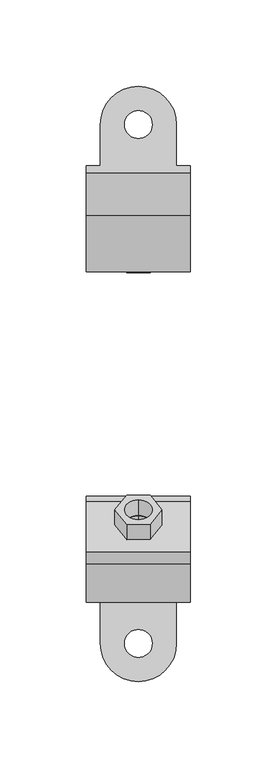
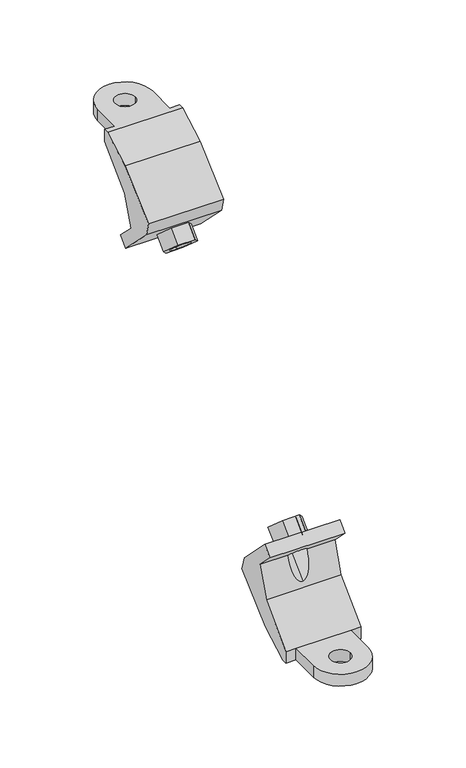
"""IFC4 building model written with IfcOpenShell, lengths in millimetres: valve geometry, Superfix Fixed point set Extra : Superfix Fixed Point Set Extra M10."""

from ifc_helpers import new_model, si_unit, point, frame, frame_2d, origin, origin_with_axes, place, context, project, spatial, polyline, circle_curve, ellipse_curve, trimmed, segment, composite_curve, outline, extrude, source, transform, mapped, element, save
from ifc_brep_helpers import plane_surface, cylinder_surface, revolved_surface, advanced_brep


def valve_ba4c3353(model_context):
    return source(origin(), model_context, "Body", "SolidModel", [
        advanced_brep(
        [(30.0, 272.0, 300.0), (30.0, 247.5658464, 286.4559275), (30.0, 214.9133707, 257.0555063), (30.0, 217.9019556, 245.9019556), (30.0, 246.8933336, 216.9105776), (30.0, 253.9644014, 223.9816454), (30.0, 239.8222658, 238.123781), (30.0, 248.7244405, 262.5823048), (30.0, 276.1421356, 290.0), (30.0, 276.1421356, 300.0), (-30.0, 276.1421356, 290.0), (-30.0, 248.7244405, 262.5823048), (-30.0, 239.8222658, 238.123781), (-30.0, 253.9644014, 223.9816454), (-30.0, 246.8933336, 216.9105776), (-30.0, 217.9019556, 245.9019556), (-30.0, 214.9133707, 257.0555063), (-30.0, 247.5658464, 286.4559275), (-30.0, 272.0, 300.0), (-30.0, 276.1421356, 300.0), (22.0, 276.1421356, 300.0), (22.0, 300.0, 300.0), (0.0, 322.0, 300.0), (-22.0, 300.0, 300.0), (-22.0, 276.1421356, 300.0), (-8.0, 300.0, 300.0), (8.0, 300.0, 300.0), (0.0, 237.5588098, 226.2451013), (0.0, 226.2451013, 237.5588098), (-7.9093347, 239.8222658, 238.123781), (0.0, 244.6298777, 233.3161692), (7.9093347, 239.8222658, 238.123781), (0.0, 247.2685385, 258.582247), (-22.0, 276.1421356, 290.0), (22.0, 276.1421356, 290.0), (-22.0, 300.0, 290.0), (0.0, 322.0, 290.0), (22.0, 300.0, 290.0), (8.0, 300.0, 290.0), (-8.0, 300.0, 290.0)],
        [
            (0, 1),
            (1, 2),
            (2, 3),
            (3, 4),
            (4, 5),
            (5, 6),
            (6, 7),
            (7, 8),
            (8, 9),
            (9, 0),
            (10, 11),
            (11, 12),
            (12, 13),
            (13, 14),
            (14, 15),
            (15, 16),
            (16, 17),
            (17, 18),
            (18, 19),
            (19, 10),
            (18, 0),
            (9, 20),
            (20, 21),
            (21, 22, circle_curve(frame((0.0, 300.0, 300.0), z_axis=(0.0, 0.0, 1.0), x_axis=(1.0, 0.0, 0.0)), 22.0)),
            (22, 23, circle_curve(frame((0.0, 300.0, 300.0), z_axis=(0.0, 0.0, 1.0), x_axis=(1.0, 0.0, 0.0)), 22.0)),
            (23, 24),
            (24, 19),
            (25, 26, circle_curve(frame((0.0, 300.0, 300.0), z_axis=(0.0, 0.0, -1.0), x_axis=(1.0, 0.0, 0.0)), 8.0)),
            (26, 25, circle_curve(frame((0.0, 300.0, 300.0), z_axis=(0.0, 0.0, -1.0), x_axis=(1.0, 0.0, 0.0)), 8.0)),
            (17, 1),
            (16, 2),
            (15, 3),
            (14, 4),
            (27, 28, circle_curve(frame((0.0, 231.9019556, 231.9019556), z_axis=(0.0, 0.7071067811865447, 0.7071067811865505), x_axis=(0.0, -0.7071067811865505, 0.7071067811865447)), 8.0)),
            (28, 27, circle_curve(frame((0.0, 231.9019556, 231.9019556), z_axis=(0.0, 0.7071067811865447, 0.7071067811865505), x_axis=(0.0, -0.7071067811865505, 0.7071067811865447)), 8.0)),
            (13, 5),
            (12, 29),
            (29, 30, circle_curve(frame((0.0, 238.9730234, 238.9730234), z_axis=(0.0, -0.7071067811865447, -0.7071067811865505), x_axis=(0.0, -0.7071067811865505, 0.7071067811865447)), 8.0)),
            (30, 31, circle_curve(frame((0.0, 238.9730234, 238.9730234), z_axis=(0.0, -0.7071067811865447, -0.7071067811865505), x_axis=(0.0, -0.7071067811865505, 0.7071067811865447)), 8.0)),
            (31, 6),
            (31, 32, ellipse_curve(frame((0.0, 240.7942296, 240.7942296), z_axis=(0.0, -0.9396926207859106, 0.34202014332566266), x_axis=(0.0, 0.3420201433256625, 0.9396926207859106)), 18.9296127, 8.0)),
            (32, 29, ellipse_curve(frame((0.0, 240.7942296, 240.7942296), z_axis=(0.0, -0.9396926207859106, 0.34202014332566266), x_axis=(0.0, 0.3420201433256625, 0.9396926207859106)), 18.9296127, 8.0)),
            (11, 7),
            (10, 33),
            (33, 34),
            (34, 8),
            (33, 35),
            (35, 36, circle_curve(frame((0.0, 300.0, 290.0), z_axis=(0.0, 0.0, -1.0), x_axis=(1.0, 0.0, 0.0)), 22.0)),
            (36, 37, circle_curve(frame((0.0, 300.0, 290.0), z_axis=(0.0, 0.0, -1.0), x_axis=(1.0, 0.0, 0.0)), 22.0)),
            (37, 34),
            (38, 39, circle_curve(frame((0.0, 300.0, 290.0), z_axis=(0.0, 0.0, 1.0), x_axis=(1.0, 0.0, 0.0)), 8.0)),
            (39, 38, circle_curve(frame((0.0, 300.0, 290.0), z_axis=(0.0, 0.0, 1.0), x_axis=(1.0, 0.0, 0.0)), 8.0)),
            (38, 26),
            (25, 39),
            (27, 30),
            (32, 28),
            (33, 24),
            (23, 35),
            (34, 20),
            (37, 21),
        ],
        [
            plane_surface(frame((30.0, 279.9912487, 300.0), z_axis=(1.0, 0.0, 0.0), x_axis=(0.0, -1.0, 0.0))),
            plane_surface(frame((-30.0, 279.9912487, 300.0), z_axis=(-1.0, 0.0, 0.0), x_axis=(0.0, 1.0, 0.0))),
            plane_surface(frame((30.0, 322.0, 300.0), z_axis=(0.0, 0.0, 1.0), x_axis=(-1.0, 0.0, 0.0))),
            plane_surface(frame((30.0, 272.0, 300.0), z_axis=(0.0, -0.48480962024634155, 0.8746197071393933), x_axis=(-1.0, 0.0, 0.0))),
            plane_surface(frame((30.0, 247.5658464, 286.4559275), z_axis=(0.0, -0.6691306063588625, 0.7431448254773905), x_axis=(-1.0, 0.0, 0.0))),
            plane_surface(frame((30.0, 214.9133707, 257.0555063), z_axis=(0.0, -0.9659258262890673, -0.25881904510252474), x_axis=(-1.0, 0.0, 0.0))),
            plane_surface(frame((30.0, 217.9019556, 245.9019556), z_axis=(0.0, -0.7071067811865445, -0.7071067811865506), x_axis=(-1.0, 0.0, 0.0))),
            plane_surface(frame((30.0, 246.8933336, 216.9105776), z_axis=(0.0, 0.7071067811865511, -0.7071067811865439), x_axis=(-1.0, 0.0, 0.0))),
            plane_surface(frame((30.0, 253.9644014, 223.9816454), z_axis=(0.0, 0.7071067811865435, 0.7071067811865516), x_axis=(-1.0, 0.0, 0.0))),
            plane_surface(frame((30.0, 239.8222658, 238.123781), z_axis=(0.0, 0.9396926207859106, -0.34202014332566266), x_axis=(-1.0, 0.0, 0.0))),
            plane_surface(frame((30.0, 248.7244405, 262.5823048), z_axis=(0.0, 0.7071067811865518, -0.7071067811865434), x_axis=(-1.0, 0.0, 0.0))),
            plane_surface(frame((30.0, 276.1421356, 290.0), z_axis=(0.0, 0.0, -1.0), x_axis=(-1.0, 0.0, 0.0))),
            revolved_surface(polyline([(8.0, 300.0, 290.0), (8.0, 300.0, 300.0)]), (0.0, 300.0, 300.0), (0.0, 0.0, -1.0)),
            revolved_surface(polyline([(0.0, 247.2685385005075, 258.5822469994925), (0.0, 223.00621224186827, 234.3199207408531)]), (0.0, 222.7095674, 222.7095674), (0.0, 0.7071067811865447, 0.7071067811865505)),
            plane_surface(frame((-22.0, 300.0, 290.0), z_axis=(-1.0, 0.0, 0.0), x_axis=(0.0, 0.0, 1.0))),
            plane_surface(frame((-22.0, 276.1421356, 290.0), z_axis=(0.0, 1.0, 0.0), x_axis=(0.0, 0.0, 1.0))),
            plane_surface(frame((30.0, 276.1421356, 290.0), z_axis=(0.0, 1.0, 0.0), x_axis=(0.0, 0.0, 1.0))),
            plane_surface(frame((22.0, 276.1421356, 290.0), z_axis=(1.0, 0.0, 0.0), x_axis=(0.0, 0.0, 1.0))),
            cylinder_surface(frame((0.0, 300.0, 300.0), z_axis=(0.0, 0.0, 1.0), x_axis=(1.0, 0.0, 0.0)), 22.0),
        ],
        [
            (0, [[1, 2, 3, 4, 5, 6, 7, 8, 9, 10]]),
            (1, [[11, 12, 13, 14, 15, 16, 17, 18, 19, 20]]),
            (2, [[21, -10, 22, 23, 24, 25, 26, 27, -19], [28, 29]]),
            (3, [[-1, -21, -18, 30]]),
            (4, [[-2, -30, -17, 31]]),
            (5, [[-3, -31, -16, 32]]),
            (6, [[-4, -32, -15, 33], [34, 35]]),
            (7, [[-5, -33, -14, 36]]),
            (8, [[-6, -36, -13, 37, 38, 39, 40]]),
            (9, [[-7, -40, 41, 42, -37, -12, 43]]),
            (10, [[-8, -43, -11, 44, 45, 46]]),
            (11, [[-45, 47, 48, 49, 50], [51, 52]]),
            (12, [[53, -28, 54, -51]]),
            (12, [[-53, -52, -54, -29]]),
            (13, [[55, -38, -42, 56, -34]]),
            (13, [[-55, -35, -56, -41, -39]]),
            (14, [[57, -26, 58, -47]]),
            (15, [[-57, -44, -20, -27]]),
            (16, [[59, -22, -9, -46]]),
            (17, [[-59, -50, 60, -23]]),
            (18, [[-58, -25, -24, -60, -49, -48]]),
        ],
    ),
        extrude(outline(polyline([(0.0, 0.0), (13.5677313, 0.0), (20.351597, -11.75), (13.5677313, -23.5), (0.0, -23.5), (-6.7838657, -11.7499999), (0.0, 0.0)]), holes=[composite_curve([segment(trimmed(circle_curve(frame_2d((6.7838657, -11.75)), 8.0), [point((-0.1443376, -15.75))], [point((13.7120689, -7.75))], True, "CARTESIAN"), True, "CONTINUOUS"), segment(trimmed(circle_curve(frame_2d((6.7838657, -11.75)), 8.0), [point((13.7120689, -7.75))], [point((-0.1443376, -15.75))], True, "CARTESIAN"), True, "CONTINUOUS")], self_intersect=False)]), frame((13.5677313, 222.7095674, 222.7095674), z_axis=(0.0, 0.7071067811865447, 0.7071067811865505), x_axis=(-0.5000000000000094, -0.6123724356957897, 0.6123724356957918)), (0.0, 0.0, 1.0), 13.0),
        advanced_brep(
        [(30.0, 28.0, 0.0), (30.0, 52.4341536, 13.5440725), (30.0, 85.0866293, 42.9444937), (30.0, 82.0980444, 54.0980444), (30.0, 53.1066664, 83.0894224), (30.0, 46.0355986, 76.0183546), (30.0, 60.1777342, 61.876219), (30.0, 51.2755595, 37.4176952), (30.0, 23.8578644, 10.0), (30.0, 23.8578644, 0.0), (-30.0, 23.8578644, 10.0), (-30.0, 51.2755595, 37.4176952), (-30.0, 60.1777342, 61.876219), (-30.0, 46.0355986, 76.0183546), (-30.0, 53.1066664, 83.0894224), (-30.0, 82.0980444, 54.0980444), (-30.0, 85.0866293, 42.9444937), (-30.0, 52.4341536, 13.5440725), (-30.0, 28.0, 0.0), (-30.0, 23.8578644, 0.0), (22.0, 23.8578644, 0.0), (22.0, 0.0, 0.0), (0.0, -22.0, 0.0), (-22.0, 0.0, 0.0), (-22.0, 23.8578644, 0.0), (-8.0, 0.0, 0.0), (8.0, 0.0, 0.0), (0.0, 62.4411902, 73.7548987), (0.0, 73.7548987, 62.4411902), (-7.9093347, 60.1777342, 61.876219), (0.0, 55.3701223, 66.6838308), (7.9093347, 60.1777342, 61.876219), (0.0, 52.7314615, 41.417753), (-22.0, 23.8578644, 10.0), (22.0, 23.8578644, 10.0), (-22.0, 0.0, 10.0), (0.0, -22.0, 10.0), (22.0, 0.0, 10.0), (8.0, 0.0, 10.0), (-8.0, 0.0, 10.0)],
        [
            (0, 1),
            (1, 2),
            (2, 3),
            (3, 4),
            (4, 5),
            (5, 6),
            (6, 7),
            (7, 8),
            (8, 9),
            (9, 0),
            (10, 11),
            (11, 12),
            (12, 13),
            (13, 14),
            (14, 15),
            (15, 16),
            (16, 17),
            (17, 18),
            (18, 19),
            (19, 10),
            (18, 0),
            (9, 20),
            (20, 21),
            (21, 22, circle_curve(frame((0.0, 0.0, 0.0), z_axis=(0.0, 0.0, -1.0), x_axis=(1.0, 0.0, 0.0)), 22.0)),
            (22, 23, circle_curve(frame((0.0, 0.0, 0.0), z_axis=(0.0, 0.0, -1.0), x_axis=(1.0, 0.0, 0.0)), 22.0)),
            (23, 24),
            (24, 19),
            (25, 26, circle_curve(origin_with_axes(), 8.0)),
            (26, 25, circle_curve(origin_with_axes(), 8.0)),
            (17, 1),
            (16, 2),
            (15, 3),
            (14, 4),
            (27, 28, circle_curve(frame((0.0, 68.0980444, 68.0980444), z_axis=(0.0, -0.707106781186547, -0.7071067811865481), x_axis=(0.0, 0.7071067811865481, -0.707106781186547)), 8.0)),
            (28, 27, circle_curve(frame((0.0, 68.0980444, 68.0980444), z_axis=(0.0, -0.707106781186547, -0.7071067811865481), x_axis=(0.0, 0.7071067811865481, -0.707106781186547)), 8.0)),
            (13, 5),
            (12, 29),
            (29, 30, circle_curve(frame((0.0, 61.0269766, 61.0269766), z_axis=(0.0, 0.707106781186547, 0.7071067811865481), x_axis=(0.0, 0.7071067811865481, -0.707106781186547)), 8.0)),
            (30, 31, circle_curve(frame((0.0, 61.0269766, 61.0269766), z_axis=(0.0, 0.707106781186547, 0.7071067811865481), x_axis=(0.0, 0.7071067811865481, -0.707106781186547)), 8.0)),
            (31, 6),
            (31, 32, ellipse_curve(frame((0.0, 59.2057704, 59.2057704), z_axis=(0.0, 0.9396926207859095, -0.3420201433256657), x_axis=(0.0, -0.34202014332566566, -0.9396926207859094)), 18.9296127, 8.0)),
            (32, 29, ellipse_curve(frame((0.0, 59.2057704, 59.2057704), z_axis=(0.0, 0.9396926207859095, -0.3420201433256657), x_axis=(0.0, -0.34202014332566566, -0.9396926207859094)), 18.9296127, 8.0)),
            (11, 7),
            (10, 33),
            (33, 34),
            (34, 8),
            (33, 35),
            (35, 36, circle_curve(frame((0.0, 0.0, 10.0), z_axis=(0.0, 0.0, 1.0), x_axis=(1.0, 0.0, 0.0)), 22.0)),
            (36, 37, circle_curve(frame((0.0, 0.0, 10.0), z_axis=(0.0, 0.0, 1.0), x_axis=(1.0, 0.0, 0.0)), 22.0)),
            (37, 34),
            (38, 39, circle_curve(frame((0.0, 0.0, 10.0), z_axis=(0.0, 0.0, -1.0), x_axis=(1.0, 0.0, 0.0)), 8.0)),
            (39, 38, circle_curve(frame((0.0, 0.0, 10.0), z_axis=(0.0, 0.0, -1.0), x_axis=(1.0, 0.0, 0.0)), 8.0)),
            (38, 26),
            (25, 39),
            (27, 30),
            (32, 28),
            (33, 24),
            (23, 35),
            (34, 20),
            (37, 21),
        ],
        [
            plane_surface(frame((30.0, 20.0087513, 0.0), z_axis=(1.0, 0.0, 0.0), x_axis=(0.0, 1.0, 0.0))),
            plane_surface(frame((-30.0, 20.0087513, 0.0), z_axis=(-1.0, 0.0, 0.0), x_axis=(0.0, -1.0, 0.0))),
            plane_surface(frame((30.0, -22.0, 0.0), z_axis=(0.0, 0.0, -1.0), x_axis=(-1.0, 0.0, 0.0))),
            plane_surface(frame((30.0, 28.0, 0.0), z_axis=(0.0, 0.4848096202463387, -0.8746197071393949), x_axis=(-1.0, 0.0, 0.0))),
            plane_surface(frame((30.0, 52.4341536, 13.5440725), z_axis=(0.0, 0.66913060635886, -0.7431448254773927), x_axis=(-1.0, 0.0, 0.0))),
            plane_surface(frame((30.0, 85.0866293, 42.9444937), z_axis=(0.0, 0.9659258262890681, 0.2588190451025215), x_axis=(-1.0, 0.0, 0.0))),
            plane_surface(frame((30.0, 82.0980444, 54.0980444), z_axis=(0.0, 0.7071067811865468, 0.7071067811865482), x_axis=(-1.0, 0.0, 0.0))),
            plane_surface(frame((30.0, 53.1066664, 83.0894224), z_axis=(0.0, -0.7071067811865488, 0.7071067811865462), x_axis=(-1.0, 0.0, 0.0))),
            plane_surface(frame((30.0, 46.0355986, 76.0183546), z_axis=(0.0, -0.7071067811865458, -0.7071067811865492), x_axis=(-1.0, 0.0, 0.0))),
            plane_surface(frame((30.0, 60.1777342, 61.876219), z_axis=(0.0, -0.9396926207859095, 0.3420201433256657), x_axis=(-1.0, 0.0, 0.0))),
            plane_surface(frame((30.0, 51.2755595, 37.4176952), z_axis=(0.0, -0.7071067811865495, 0.7071067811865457), x_axis=(-1.0, 0.0, 0.0))),
            plane_surface(frame((30.0, 23.8578644, 10.0), z_axis=(0.0, 0.0, 1.0), x_axis=(-1.0, 0.0, 0.0))),
            revolved_surface(polyline([(8.0, 0.0, 10.0), (8.0, 0.0, 0.0)]), (0.0, 0.0, 0.0), (0.0, 0.0, 1.0)),
            revolved_surface(polyline([(0.0, 52.7314614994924, 41.4177530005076), (0.0, 76.99378775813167, 65.68007925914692)]), (0.0, 77.2904326, 77.2904326), (0.0, -0.707106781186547, -0.7071067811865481)),
            plane_surface(frame((-22.0, 0.0, 10.0), z_axis=(-1.0, 0.0, 0.0), x_axis=(0.0, 0.0, -1.0))),
            plane_surface(frame((-22.0, 23.8578644, 10.0), z_axis=(0.0, -1.0, 0.0), x_axis=(0.0, 0.0, -1.0))),
            plane_surface(frame((30.0, 23.8578644, 10.0), z_axis=(0.0, -1.0, 0.0), x_axis=(0.0, 0.0, -1.0))),
            plane_surface(frame((22.0, 23.8578644, 10.0), z_axis=(1.0, 0.0, 0.0), x_axis=(0.0, 0.0, -1.0))),
            cylinder_surface(frame((0.0, 0.0, 0.0), z_axis=(0.0, 0.0, -1.0), x_axis=(1.0, 0.0, 0.0)), 22.0),
        ],
        [
            (0, [[1, 2, 3, 4, 5, 6, 7, 8, 9, 10]]),
            (1, [[11, 12, 13, 14, 15, 16, 17, 18, 19, 20]]),
            (2, [[21, -10, 22, 23, 24, 25, 26, 27, -19], [28, 29]]),
            (3, [[-1, -21, -18, 30]]),
            (4, [[-2, -30, -17, 31]]),
            (5, [[-3, -31, -16, 32]]),
            (6, [[-4, -32, -15, 33], [34, 35]]),
            (7, [[-5, -33, -14, 36]]),
            (8, [[-6, -36, -13, 37, 38, 39, 40]]),
            (9, [[-7, -40, 41, 42, -37, -12, 43]]),
            (10, [[-8, -43, -11, 44, 45, 46]]),
            (11, [[-45, 47, 48, 49, 50], [51, 52]]),
            (12, [[53, -28, 54, -51]]),
            (12, [[-53, -52, -54, -29]]),
            (13, [[55, -38, -42, 56, -34]]),
            (13, [[-55, -35, -56, -41, -39]]),
            (14, [[57, -26, 58, -47]]),
            (15, [[-57, -44, -20, -27]]),
            (16, [[59, -22, -9, -46]]),
            (17, [[-59, -50, 60, -23]]),
            (18, [[-58, -25, -24, -60, -49, -48]]),
        ],
    ),
        extrude(outline(polyline([(0.0, 0.0), (6.7838657, -11.75), (0.0, -23.5), (-13.5677313, -23.5), (-20.351597, -11.75), (-13.5677313, 1e-07), (0.0, 0.0)]), holes=[composite_curve([segment(trimmed(circle_curve(frame_2d((-6.7838656, -11.75)), 8.0), [point((-13.7120689, -7.75))], [point((0.1443376, -15.75))], True, "CARTESIAN"), True, "CONTINUOUS"), segment(trimmed(circle_curve(frame_2d((-6.7838656, -11.75)), 8.0), [point((0.1443376, -15.75))], [point((-13.7120689, -7.75))], True, "CARTESIAN"), True, "CONTINUOUS")], self_intersect=False)]), frame((13.5677313, 68.0980444, 68.0980444), z_axis=(0.0, 0.707106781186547, 0.7071067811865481), x_axis=(0.49999999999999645, -0.6123724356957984, 0.6123724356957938)), (0.0, 0.0, 1.0), 13.0),
    ])


if __name__ == "__main__":
    model = new_model("IFC4")
    model_context = context("Model", 3, world=origin())
    ifc_project = project(units=[si_unit("LENGTHUNIT", "METRE", prefix="MILLI")], contexts=[model_context])
    site = spatial("IfcSite", under=ifc_project)
    building = spatial("IfcBuilding", under=site)
    placement = place(None, origin())
    valve_shape = valve_ba4c3353(model_context)
    element("IfcValve", 1, ObjectType="Superfix Fixed point set Extra : Superfix Fixed Point Set Extra M10", at=placement, inside=building, context=model_context, shape_type="MappedRepresentation", body=[
        mapped(valve_shape, transform((0.0, 0.0, 0.0), x_axis=(1.0, 0.0, 0.0), y_axis=(0.0, 1.0, 0.0), z_axis=(0.0, 0.0, 1.0))),
    ])
    save(model, "model.ifc")
